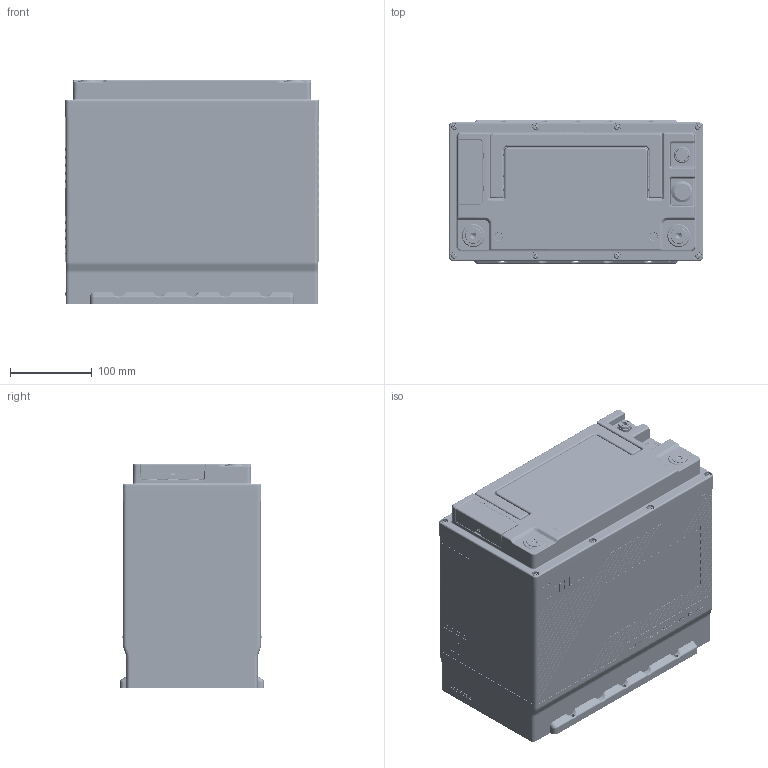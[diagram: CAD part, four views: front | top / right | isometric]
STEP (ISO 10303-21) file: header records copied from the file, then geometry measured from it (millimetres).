
FILE_DESCRIPTION((''),'2;1');
FILE_NAME('AES-B-GC12-24V-0426_ASM','2024-04-26T18:28:33',('Administrator'),(''),'CREO PARAMETRIC BY PTC INC, 2019224','CREO PARAMETRIC BY PTC INC, 2019224','');
FILE_SCHEMA(('AUTOMOTIVE_DESIGN { 1 0 10303 214 1 1 1 1 }'));
Products named in the file (89): 0100_2_22_1; DINL03_DL03-15B001_183_1; TISHOU-02_38_1; TONGLUOZHU-01_A2_23_1; TONGLUOZHU-03_20_1; TOUQIFA-2_22_1; RONGDUANQI-2_20_1; GAIBAN_60_1; 90374A114__METRIC_MED-STRENGTH_; NUT_M3_5_1; SHANGGAIZUJIAN-00_ASM_42_ASM_1_ASM; L4-1_22_1_1; L4-1_22_2_1; L4-1_22_3_1; L4-1_22_4_1; L4-1_22_5_1; L4-1_22_6_1; L4-1_22_7_1; L4-1_22_8_1; L4-1_22_9_1; L4-1_22_10_1; L4-1_22_11_1; L4-1_22_12_1; L4-1_22_13_1; L4-1_22_14_1; L4-1_22_15_1; L4-1_22_16_1; L4-1_22_17_1; L4-1_22_18_1; L4-1_22_19_1; L4-1_22_20_1; L4-1_22_21_1; L4-1_22_22_1; L4-1_22_23_1; L4-1_22_24_1; L4-1_22_25_1; L4-1_22_26_1; L4-1_22_27_1; L4-1_22_28_1; L4-1_22_29_1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
Assembly tree (112 placements, depth 5):
  AES-B-GC12-24V-0426_ASM
    AES-B-GC12-24V_ASM_1_ASM
      L4-24V_ASM_146_ASM_1_ASM
        0100_2_22_1
        SHANGGAIZUJIAN-00_ASM_42_ASM_1_ASM
          DINL03_DL03-15B001_183_1
          TISHOU-02_38_1
          TONGLUOZHU-01_A2_23_1  x2
          TONGLUOZHU-03_20_1  x2
          TOUQIFA-2_22_1
          RONGDUANQI-2_20_1
          GAIBAN_60_1
          90374A114__METRIC_MED-STRENGTH_  x4
          NUT_M3_5_1  x4
        L4-1_22_ASM_1_ASM  x2
          L4-1_22_1_1
          L4-1_22_2_1
          L4-1_22_3_1
          L4-1_22_4_1
          L4-1_22_5_1
          L4-1_22_6_1
          L4-1_22_7_1
          L4-1_22_8_1
          L4-1_22_9_1
          L4-1_22_10_1
          L4-1_22_11_1
          L4-1_22_12_1
          L4-1_22_13_1
          L4-1_22_14_1
          L4-1_22_15_1
          L4-1_22_16_1
          L4-1_22_17_1
          L4-1_22_18_1
          L4-1_22_19_1
          L4-1_22_20_1
          L4-1_22_21_1
          L4-1_22_22_1
          L4-1_22_23_1
          L4-1_22_24_1
          L4-1_22_25_1
          L4-1_22_26_1
          L4-1_22_27_1
          L4-1_22_28_1
          L4-1_22_29_1
          L4-1_22_30_1
          L4-1_22_31_1
          L4-1_22_32_1
          L4-1_22_33_1
          L4-1_22_34_1
          L4-1_22_35_1
          L4-1_22_36_1
          L4-1_22_37_1
          L4-1_22_38_1
          L4-1_22_39_1
          L4-1_22_40_1
          L4-1_22_41_1
          L4-1_22_42_1
          L4-1_22_43_1
          L4-1_22_44_1
          L4-1_22_45_1
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Bounding box: 311.5 x 176.5 x 276 mm (x, y, z)
Volume: 1339251.4 mm3; surface area: 1121838.2 mm2
Topology: 178 solids, 194 shells, 8180 faces, 25895 edges, 20206 vertices
Faces by surface type: plane 4250, cylinder 2763, bspline 405, cone 348, sphere 156, extrusion 136, torus 106, revolution 16
Entity records: 234806 total; most frequent: CARTESIAN_POINT 74169, DIRECTION 23952, ORIENTED_EDGE 23941, EDGE_CURVE 11993, PRESENTATION_STYLE_ASSIGNMENT 11020, STYLED_ITEM 10795, CURVE_STYLE 10110, VECTOR 8918
